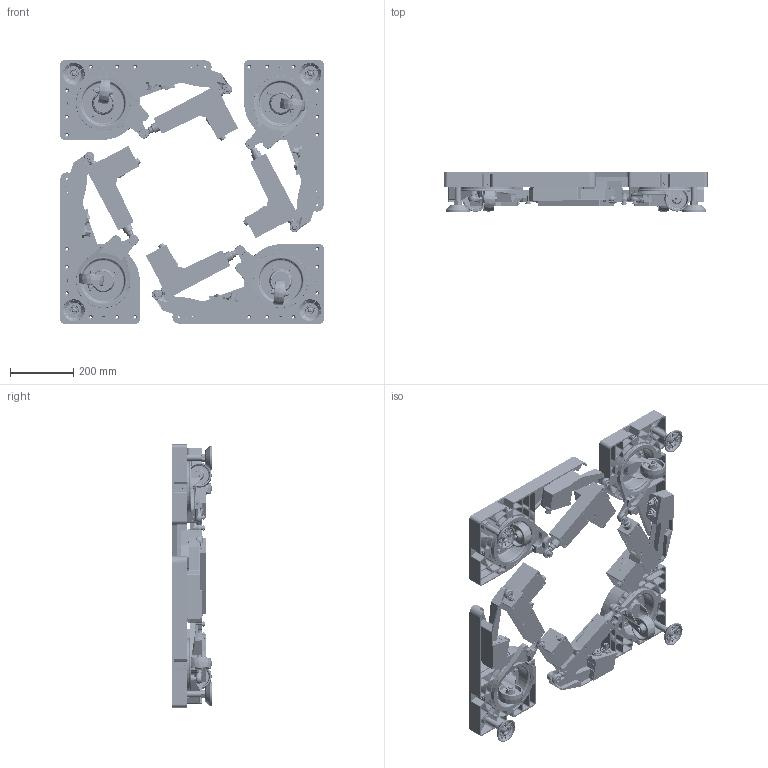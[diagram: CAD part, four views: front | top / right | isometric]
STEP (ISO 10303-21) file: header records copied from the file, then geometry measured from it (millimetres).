
FILE_DESCRIPTION(/* description */ ('STEP AP203'),/* implementation_level */ '2;1');
FILE_NAME(/* name */ 'C:\Users\Stefan.Nesic\Desktop\01010STEP\000Verifica\CORRETTI\LC125E.ST.stp',/* time_stamp */ '2022-07-11T16:40:30+02:00',/* author */ (''),/* organization */ (''),/* preprocessor_version */ 'ST-DEVELOPER v18.1',/* originating_system */ 'Autodesk Inventor 2021',/* authorisation */ ' ');
FILE_SCHEMA (('AUTOMOTIVE_DESIGN { 1 0 10303 214 3 1 1 }'));
Products named in the file (1): LC125E.ST
Bounding box: 830 x 125 x 830 mm (x, y, z)
Volume: 14024425.8 mm3; surface area: 2845780.6 mm2
Topology: 44 solids, 44 shells, 5880 faces, 15284 edges, 10020 vertices
Faces by surface type: plane 2724, cylinder 2320, cone 540, torus 256, sphere 36, bspline 4
Full cylindrical faces by diameter (mm): 1.5 x32, 2.5 x16, 4 x4, 5.703 x4, 6.6 x52, 6.647 x12, 6.8 x16, 7 x24, 8 x48, 8.3 x36, 9 x16, 9.6 x4, 10 x52, 10.5 x4, 12 x72, 12.8 x4, 13 x20, 13.44 x8, 13.835 x4, 14 x4, 16 x4, 17.5 x8, 18 x24, 20 x4, 21.5 x4, 21.8 x8, 22 x20, 23.5 x4, 25 x8, 30 x8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
Entity records: 187538 total; most frequent: CARTESIAN_POINT 37561, DIRECTION 32514, ORIENTED_EDGE 30536, EDGE_CURVE 15268, AXIS2_PLACEMENT_3D 12397, VERTEX_POINT 10020, LINE 7720, VECTOR 7720
